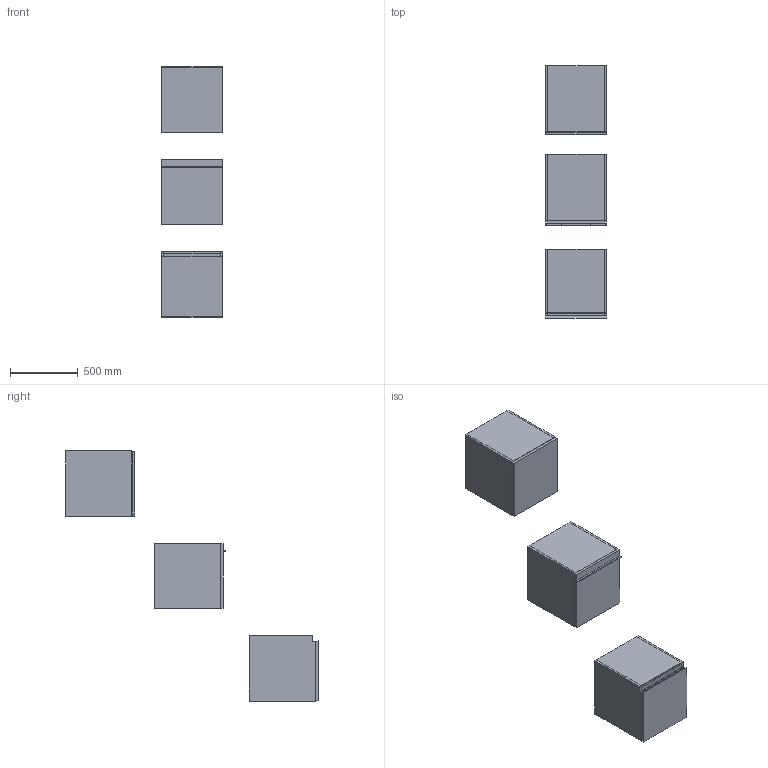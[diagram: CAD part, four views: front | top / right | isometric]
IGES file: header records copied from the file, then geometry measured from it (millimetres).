
Start section: Data from Parasolid IGES Translator 19.0.9, Copyright(c) 2006 Siemens PL M Software. All Rights Reserved.
Global section: file name: noorth-SI-H 48 D 51 W 45_8587.igs; native system: By Siemens PLM Incorporated; preprocessor: XPlus GENERIC/IGES 19.0.9; author: Noname; organization: Noname; date: 20200601.112247; units: metre
Bounding box: 450.01 x 1857.1 x 1840 mm (x, y, z)
Volume: 55416541.2 mm3; surface area: 8161199 mm2
Topology: 20 solids, 20 shells, 178 faces, 382 edges, 234 vertices
Faces by surface type: plane 134, extrusion 16, bspline 16, cylinder 12
